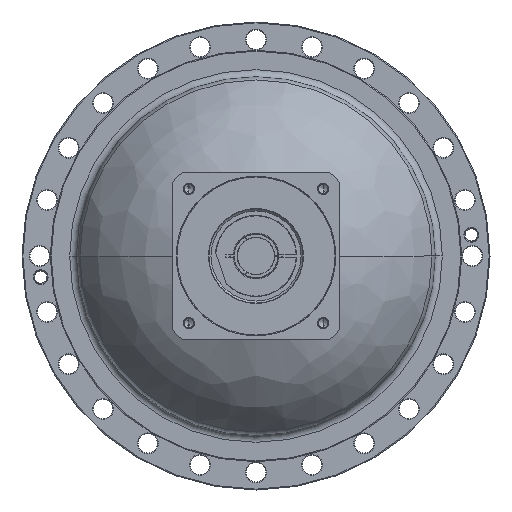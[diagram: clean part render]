
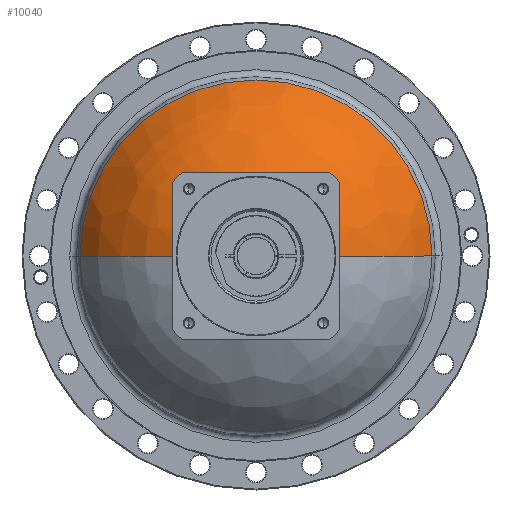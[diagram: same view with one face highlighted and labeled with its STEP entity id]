
A CAD part, left-side view. The second image highlights one B-rep face of the part: STEP entity #10040.
In plain terms, the highlighted free-form (B-spline) face has degree [3, 3] with [7, 4] control points.
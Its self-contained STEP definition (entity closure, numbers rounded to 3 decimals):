
#9548=CARTESIAN_POINT('',(-11.992,0.,0.));
#9549=DIRECTION('',(-1.,0.,0.));
#9550=DIRECTION('',(0.,-1.,0.));
#9551=AXIS2_PLACEMENT_3D('',#9548,#9549,#9550);
#9553=CARTESIAN_POINT('',(-97.009,0.,0.));
#9554=DIRECTION('',(1.,0.,0.));
#9555=DIRECTION('',(0.,1.,0.));
#9556=AXIS2_PLACEMENT_3D('',#9553,#9554,#9555);
#9563=CARTESIAN_POINT('',(-200.939,28.484,0.));
#9564=DIRECTION('',(0.,0.,-1.));
#9565=DIRECTION('',(0.52,0.854,0.));
#9566=AXIS2_PLACEMENT_3D('',#9563,#9564,#9565);
#9573=CARTESIAN_POINT('',(-200.939,-28.484,0.));
#9574=DIRECTION('',(0.,0.,1.));
#9575=DIRECTION('',(0.52,-0.854,0.));
#9576=AXIS2_PLACEMENT_3D('',#9573,#9574,#9575);
#9810=CARTESIAN_POINT('',(-97.009,199.359,
0.));
#9811=CARTESIAN_POINT('',(-97.009,-199.359,0.));
#9812=VERTEX_POINT('',#9810);
#9813=VERTEX_POINT('',#9811);
#9822=CARTESIAN_POINT('',(-11.992,94.05,
0.));
#9823=CARTESIAN_POINT('',(-11.992,-94.05,
0.));
#9824=VERTEX_POINT('',#9822);
#9825=VERTEX_POINT('',#9823);
#10002=CARTESIAN_POINT('',(-99.378,200.382,
-12.607));
#10003=CARTESIAN_POINT('',(-57.233,175.588,
-11.047));
#10004=CARTESIAN_POINT('',(-26.503,137.598,
-8.657));
#10005=CARTESIAN_POINT('',(-11.105,91.254,
-5.741));
#10006=CARTESIAN_POINT('',(-99.378,208.14,
110.708));
#10007=CARTESIAN_POINT('',(-57.233,182.386,
97.01));
#10008=CARTESIAN_POINT('',(-26.503,142.925,
76.021));
#10009=CARTESIAN_POINT('',(-11.105,94.787,
50.416));
#10010=CARTESIAN_POINT('',(-99.378,123.559,
200.778));
#10011=CARTESIAN_POINT('',(-57.233,108.27,
175.935));
#10012=CARTESIAN_POINT('',(-26.503,84.845,
137.87));
#10013=CARTESIAN_POINT('',(-11.105,56.269,
91.435));
#10014=CARTESIAN_POINT('',(-99.378,0.,
200.778));
#10015=CARTESIAN_POINT('',(-57.233,0.,
175.935));
#10016=CARTESIAN_POINT('',(-26.503,0.,137.87));
#10017=CARTESIAN_POINT('',(-11.105,0.,91.435));
#10018=CARTESIAN_POINT('',(-99.378,-123.559,
200.778));
#10019=CARTESIAN_POINT('',(-57.233,-108.27,
175.935));
#10020=CARTESIAN_POINT('',(-26.503,-84.845,
137.87));
#10021=CARTESIAN_POINT('',(-11.105,-56.269,
91.435));
#10022=CARTESIAN_POINT('',(-99.378,-208.14,
110.708));
#10023=CARTESIAN_POINT('',(-57.233,-182.386,
97.01));
#10024=CARTESIAN_POINT('',(-26.503,-142.925,
76.021));
#10025=CARTESIAN_POINT('',(-11.105,-94.787,
50.416));
#10026=CARTESIAN_POINT('',(-99.378,-200.382,
-12.607));
#10027=CARTESIAN_POINT('',(-57.233,-175.588,
-11.047));
#10028=CARTESIAN_POINT('',(-26.503,-137.598,
-8.657));
#10029=CARTESIAN_POINT('',(-11.105,-91.254,
-5.741));
#10030=(BOUNDED_SURFACE()B_SPLINE_SURFACE(3,3,((#10002,#10003,#10004,#10005),(
#10006,#10007,#10008,#10009),(#10010,#10011,#10012,#10013),(#10014,#10015,
#10016,#10017),(#10018,#10019,#10020,#10021),(#10022,#10023,#10024,#10025),(
#10026,#10027,#10028,#10029)),.UNSPECIFIED.,.F.,.F.,.F.)B_SPLINE_SURFACE_WITH_KNOTS((4,3,4),(4,4),(0.,1.,2.),(0.,1.),.UNSPECIFIED.)GEOMETRIC_REPRESENTATION_ITEM()RATIONAL_B_SPLINE_SURFACE(((1.226,1.174,
1.174,1.226),(0.968,0.927,
0.927,0.968),(0.968,0.927,
0.927,0.968),(1.226,1.174,
1.174,1.226),(0.968,0.927,
0.927,0.968),(0.968,0.927,
0.927,0.968),(1.226,1.174,
1.174,1.226)))REPRESENTATION_ITEM('')SURFACE());
#10031=ORIENTED_EDGE('',*,*,#9996,.F.);
#10033=ORIENTED_EDGE('',*,*,#10032,.F.);
#10035=ORIENTED_EDGE('',*,*,#10034,.F.);
#10037=ORIENTED_EDGE('',*,*,#10036,.T.);
#10038=EDGE_LOOP('',(#10031,#10033,#10035,#10037));
#10039=FACE_OUTER_BOUND('',#10038,.F.);
#10040=ADVANCED_FACE('',(#10039),#10030,.T.);
#9552=CIRCLE('',#9551,94.05);
#9557=CIRCLE('',#9556,199.359);
#9567=CIRCLE('',#9566,200.);
#9577=CIRCLE('',#9576,200.);
#9996=EDGE_CURVE('',#9825,#9824,#9552,.T.);
#10032=EDGE_CURVE('',#9813,#9825,#9577,.T.);
#10034=EDGE_CURVE('',#9812,#9813,#9557,.T.);
#10036=EDGE_CURVE('',#9812,#9824,#9567,.T.);
